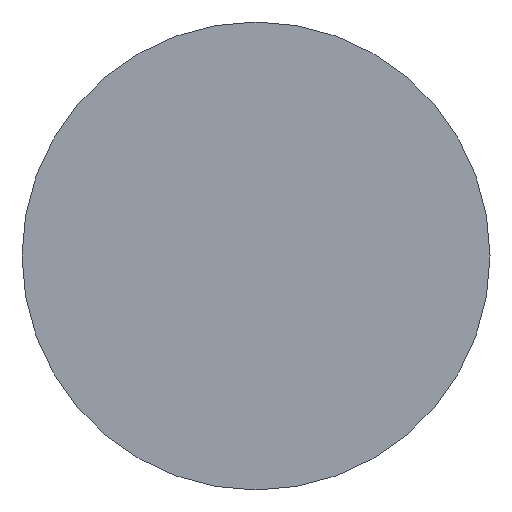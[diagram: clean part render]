
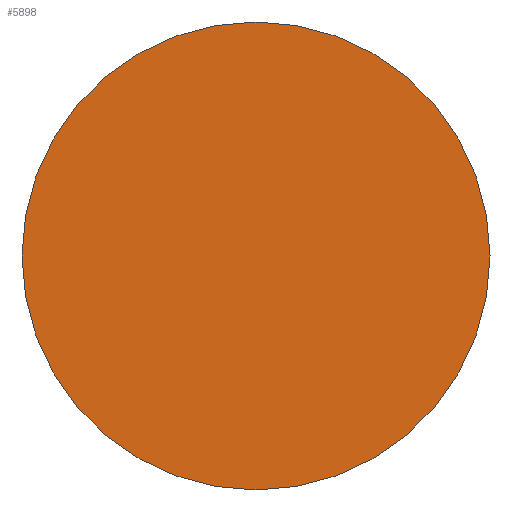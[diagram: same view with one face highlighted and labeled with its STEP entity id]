
A CAD part, top view. The second image highlights one B-rep face of the part: STEP entity #5898.
In plain terms, the highlighted planar face has unit normal (0, 0, 1).
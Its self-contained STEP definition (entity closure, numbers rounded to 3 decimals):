
#615 = CIRCLE ( 'NONE', #4197, 13. ) ;
#706 = FACE_OUTER_BOUND ( 'NONE', #1407, .T. ) ;
#860 = CARTESIAN_POINT ( 'NONE',  ( 0., 0., 59. ) ) ;
#1407 = EDGE_LOOP ( 'NONE', ( #6377 ) ) ;
#1475 = DIRECTION ( 'NONE',  ( -1., 0., 0. ) ) ;
#1605 = CARTESIAN_POINT ( 'NONE',  ( -13., 0., 59. ) ) ;
#1750 = DIRECTION ( 'NONE',  ( 0., 0., -1. ) ) ;
#2335 = CARTESIAN_POINT ( 'NONE',  ( 13., 0., 59. ) ) ;
#2487 = PLANE ( 'NONE',  #5316 ) ;
#2999 = DIRECTION ( 'NONE',  ( -1., 0., 0. ) ) ;
#4197 = AXIS2_PLACEMENT_3D ( 'NONE', #860, #5051, #1475 ) ;
#5051 = DIRECTION ( 'NONE',  ( 0., 0., -1. ) ) ;
#5316 = AXIS2_PLACEMENT_3D ( 'NONE', #2335, #1750, #2999 ) ;
#5898 = ADVANCED_FACE ( 'NONE', ( #706 ), #2487, .F. ) ;
#6133 = EDGE_CURVE ( 'NONE', #6910, #6910, #615, .T. ) ;
#6377 = ORIENTED_EDGE ( 'NONE', *, *, #6133, .F. ) ;
#6910 = VERTEX_POINT ( 'NONE', #1605 ) ;
